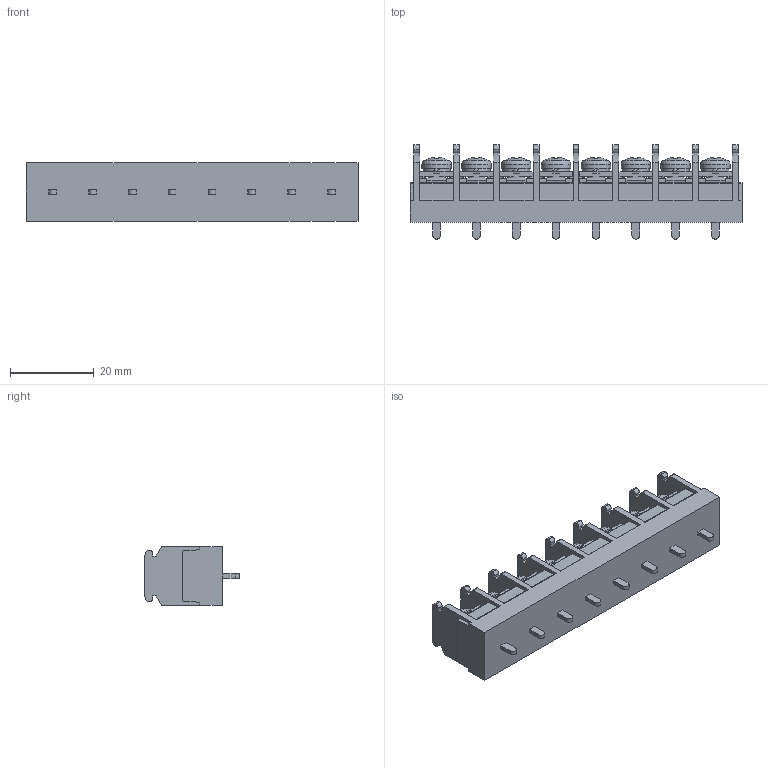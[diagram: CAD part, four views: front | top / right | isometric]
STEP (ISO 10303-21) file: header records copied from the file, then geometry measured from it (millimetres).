
FILE_DESCRIPTION(/* description */ ('Alibre Inc.'),/* implementation_level */ '2;1');
FILE_NAME(/* name */ 'export-977D5463-1816-4CB9-B6FF-5361EB4053E3',/* time_stamp */ '2021-02-13T14:02:10+09:00',/* author */ (''),/* organization */ (''),/* preprocessor_version */ 'ST-DEVELOPER v17',/* originating_system */ 'Alibre',/* authorisation */ '');
FILE_SCHEMA (('CONFIG_CONTROL_DESIGN'));
Length unit declared in the file: millimetre
Bounding box: 79.2 x 22.5 x 14 mm (x, y, z)
Volume: 13434 mm3; surface area: 9144.7 mm2
Topology: 1 solids, 25 shells, 1332 faces, 3730 edges, 2452 vertices
Faces by surface type: plane 988, cylinder 176, bspline 104, cone 40, torus 16, sphere 8
Full cylindrical faces by diameter (mm): 4 x16, 7 x8
Entity records: 40847 total; most frequent: CARTESIAN_POINT 8462, ORIENTED_EDGE 7332, DIRECTION 5306, EDGE_CURVE 3666, VECTOR 2674, LINE 2674, VERTEX_POINT 2436, AXIS2_PLACEMENT_3D 1784
